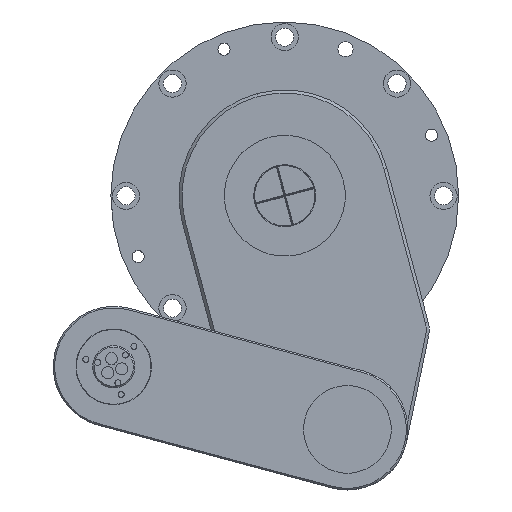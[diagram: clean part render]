
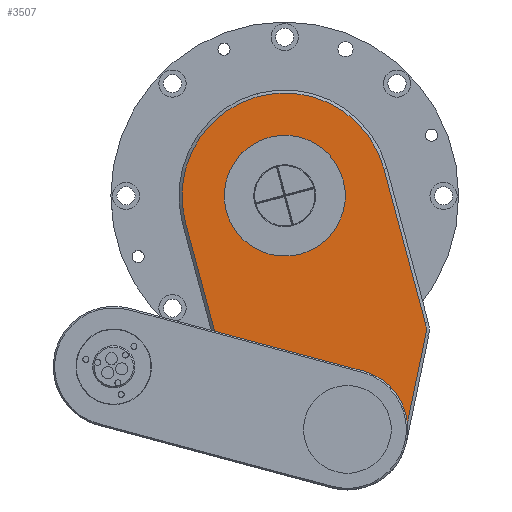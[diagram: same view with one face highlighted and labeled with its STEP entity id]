
A CAD part, top view. The second image highlights one B-rep face of the part: STEP entity #3507.
In plain terms, the highlighted planar face has unit normal (0, 0, 1).
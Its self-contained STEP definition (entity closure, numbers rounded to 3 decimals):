
#197=PLANE('',#4081);
#305=LINE('',#6387,#435);
#311=LINE('',#6402,#441);
#315=LINE('',#6413,#445);
#319=LINE('',#6425,#449);
#435=VECTOR('',#5064,10.);
#441=VECTOR('',#5078,10.);
#445=VECTOR('',#5090,10.);
#449=VECTOR('',#5102,10.);
#635=FACE_BOUND('',#1293,.T.);
#636=FACE_BOUND('',#1294,.T.);
#882=FACE_OUTER_BOUND('',#1292,.T.);
#1292=EDGE_LOOP('',(#3003,#3004,#3005,#3006,#3007,#3008,#3009,#3010));
#1293=EDGE_LOOP('',(#3011));
#1294=EDGE_LOOP('',(#3012));
#1584=CIRCLE('',#4064,18.);
#1586=CIRCLE('',#4068,68.);
#1588=CIRCLE('',#4072,18.);
#1590=CIRCLE('',#4076,38.);
#1591=CIRCLE('',#4082,40.);
#1592=CIRCLE('',#4083,35.);
#1872=VERTEX_POINT('',#6384);
#1873=VERTEX_POINT('',#6386);
#1875=VERTEX_POINT('',#6392);
#1877=VERTEX_POINT('',#6398);
#1879=VERTEX_POINT('',#6405);
#1880=VERTEX_POINT('',#6409);
#1882=VERTEX_POINT('',#6415);
#1884=VERTEX_POINT('',#6421);
#1886=VERTEX_POINT('',#6439);
#1887=VERTEX_POINT('',#6441);
#2242=EDGE_CURVE('',#1872,#1873,#305,.T.);
#2247=EDGE_CURVE('',#1873,#1875,#1584,.T.);
#2250=EDGE_CURVE('',#1875,#1877,#311,.T.);
#2252=EDGE_CURVE('',#1877,#1879,#1586,.T.);
#2256=EDGE_CURVE('',#1879,#1880,#315,.T.);
#2259=EDGE_CURVE('',#1880,#1882,#1588,.T.);
#2262=EDGE_CURVE('',#1882,#1884,#319,.T.);
#2264=EDGE_CURVE('',#1884,#1872,#1590,.T.);
#2270=EDGE_CURVE('',#1886,#1886,#1591,.T.);
#2271=EDGE_CURVE('',#1887,#1887,#1592,.T.);
#3003=ORIENTED_EDGE('',*,*,#2242,.F.);
#3004=ORIENTED_EDGE('',*,*,#2264,.F.);
#3005=ORIENTED_EDGE('',*,*,#2262,.F.);
#3006=ORIENTED_EDGE('',*,*,#2259,.F.);
#3007=ORIENTED_EDGE('',*,*,#2256,.F.);
#3008=ORIENTED_EDGE('',*,*,#2252,.F.);
#3009=ORIENTED_EDGE('',*,*,#2250,.F.);
#3010=ORIENTED_EDGE('',*,*,#2247,.F.);
#3011=ORIENTED_EDGE('',*,*,#2270,.T.);
#3012=ORIENTED_EDGE('',*,*,#2271,.T.);
#3507=ADVANCED_FACE('',(#882,#635,#636),#197,.T.);
#4064=AXIS2_PLACEMENT_3D('',#6396,#5072,#5073);
#4068=AXIS2_PLACEMENT_3D('',#6406,#5083,#5084);
#4072=AXIS2_PLACEMENT_3D('',#6419,#5096,#5097);
#4076=AXIS2_PLACEMENT_3D('',#6428,#5107,#5108);
#4081=AXIS2_PLACEMENT_3D('',#6438,#5122,#5123);
#4082=AXIS2_PLACEMENT_3D('',#6440,#5124,#5125);
#4083=AXIS2_PLACEMENT_3D('',#6442,#5126,#5127);
#5064=DIRECTION('',(-0.893,-0.45,0.));
#5072=DIRECTION('center_axis',(0.,0.,-1.));
#5073=DIRECTION('ref_axis',(0.,-1.,0.));
#5078=DIRECTION('',(-1.,0.,0.));
#5083=DIRECTION('center_axis',(0.,0.,-1.));
#5084=DIRECTION('ref_axis',(0.,1.,0.));
#5090=DIRECTION('',(1.,0.,0.));
#5096=DIRECTION('center_axis',(0.,0.,-1.));
#5097=DIRECTION('ref_axis',(0.45,0.893,0.));
#5102=DIRECTION('',(0.893,-0.45,0.));
#5107=DIRECTION('center_axis',(0.,0.,-1.));
#5108=DIRECTION('ref_axis',(0.45,-0.893,0.));
#5122=DIRECTION('center_axis',(0.,0.,1.));
#5123=DIRECTION('ref_axis',(1.,0.,0.));
#5124=DIRECTION('center_axis',(0.,0.,-1.));
#5125=DIRECTION('ref_axis',(-1.,0.,0.));
#5126=DIRECTION('center_axis',(0.,0.,-1.));
#5127=DIRECTION('ref_axis',(-1.,0.,0.));
#6384=CARTESIAN_POINT('',(177.105,-33.932,28.));
#6386=CARTESIAN_POINT('',(113.347,-66.073,28.));
#6387=CARTESIAN_POINT('',(137.945,-53.673,28.));
#6392=CARTESIAN_POINT('',(105.244,-68.,28.));
#6396=CARTESIAN_POINT('Origin',(105.244,-50.,28.));
#6398=CARTESIAN_POINT('',(0.,-68.,28.));
#6402=CARTESIAN_POINT('',(83.511,-68.,28.));
#6405=CARTESIAN_POINT('',(0.,68.,28.));
#6406=CARTESIAN_POINT('Origin',(0.,0.,28.));
#6409=CARTESIAN_POINT('',(105.244,68.,28.));
#6413=CARTESIAN_POINT('',(30.889,68.,28.));
#6415=CARTESIAN_POINT('',(113.347,66.073,28.));
#6419=CARTESIAN_POINT('Origin',(105.244,50.,28.));
#6421=CARTESIAN_POINT('',(177.105,33.932,28.));
#6425=CARTESIAN_POINT('',(106.066,69.743,28.));
#6428=CARTESIAN_POINT('Origin',(160.,0.,28.));
#6438=CARTESIAN_POINT('Origin',(61.777,0.,28.));
#6439=CARTESIAN_POINT('',(40.,0.,28.));
#6440=CARTESIAN_POINT('Origin',(0.,0.,28.));
#6441=CARTESIAN_POINT('',(195.,0.,28.));
#6442=CARTESIAN_POINT('Origin',(160.,0.,28.));
